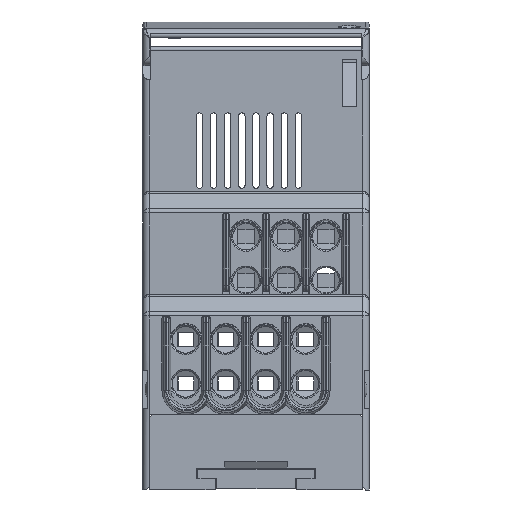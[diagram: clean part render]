
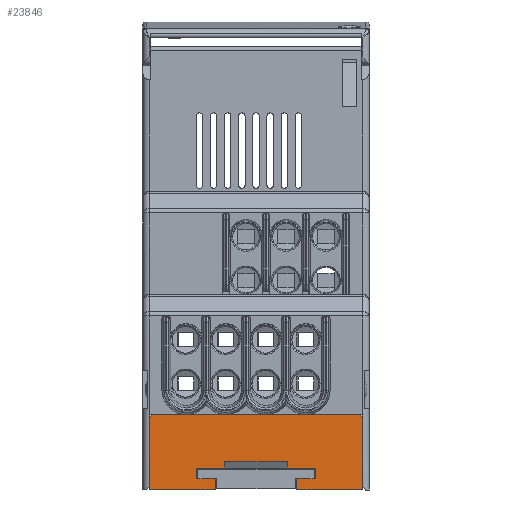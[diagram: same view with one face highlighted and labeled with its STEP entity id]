
A CAD part, front view. The second image highlights one B-rep face of the part: STEP entity #23846.
In plain terms, the highlighted planar face has unit normal (0, -1, 0).
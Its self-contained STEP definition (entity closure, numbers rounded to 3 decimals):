
#484 = VECTOR ( 'NONE', #20129, 1000. ) ;
#949 = VERTEX_POINT ( 'NONE', #53500 ) ;
#1180 = EDGE_CURVE ( 'NONE', #45303, #75495, #28636, .T. ) ;
#1429 = DIRECTION ( 'NONE',  ( -1., 0., 0. ) ) ;
#2219 = ORIENTED_EDGE ( 'NONE', *, *, #30277, .F. ) ;
#2752 = DIRECTION ( 'NONE',  ( 0., 0., 1. ) ) ;
#3574 = CARTESIAN_POINT ( 'NONE',  ( -9.5, -45., 1.8 ) ) ;
#4246 = EDGE_CURVE ( 'NONE', #50995, #17660, #43071, .T. ) ;
#4299 = CARTESIAN_POINT ( 'NONE',  ( -5., -45., 4.5 ) ) ;
#4661 = VERTEX_POINT ( 'NONE', #19169 ) ;
#5085 = PLANE ( 'NONE',  #25148 ) ;
#5450 = CARTESIAN_POINT ( 'NONE',  ( -17., -45., 0. ) ) ;
#5616 = DIRECTION ( 'NONE',  ( 0., 1., 0. ) ) ;
#6233 = EDGE_CURVE ( 'NONE', #73217, #949, #18371, .T. ) ;
#6335 = CARTESIAN_POINT ( 'NONE',  ( 6.5, -45., 1.8 ) ) ;
#7054 = VECTOR ( 'NONE', #63738, 1000. ) ;
#7445 = CARTESIAN_POINT ( 'NONE',  ( -17., -45., 3.5 ) ) ;
#7950 = EDGE_CURVE ( 'NONE', #69383, #56029, #13147, .T. ) ;
#8335 = ORIENTED_EDGE ( 'NONE', *, *, #42676, .F. ) ;
#8557 = CARTESIAN_POINT ( 'NONE',  ( 16.5, -45., 12. ) ) ;
#9383 = EDGE_CURVE ( 'NONE', #73217, #11335, #16351, .T. ) ;
#11070 = VECTOR ( 'NONE', #11446, 1000. ) ;
#11335 = VERTEX_POINT ( 'NONE', #34398 ) ;
#11446 = DIRECTION ( 'NONE',  ( -1., 0., 0. ) ) ;
#11620 = VECTOR ( 'NONE', #73232, 1000. ) ;
#11935 = EDGE_CURVE ( 'NONE', #56029, #67735, #31375, .T. ) ;
#12958 = LINE ( 'NONE', #5450, #11070 ) ;
#13147 = LINE ( 'NONE', #45584, #74516 ) ;
#13331 = CARTESIAN_POINT ( 'NONE',  ( -9.5, -45., 3.5 ) ) ;
#13802 = LINE ( 'NONE', #20501, #75200 ) ;
#14043 = CARTESIAN_POINT ( 'NONE',  ( 5., -45., 3.5 ) ) ;
#14462 = VECTOR ( 'NONE', #2752, 1000. ) ;
#14553 = DIRECTION ( 'NONE',  ( 0.707, 0., -0.707 ) ) ;
#14883 = CARTESIAN_POINT ( 'NONE',  ( -5., -45., 3.5 ) ) ;
#15934 = EDGE_CURVE ( 'NONE', #43482, #45303, #30975, .T. ) ;
#16076 = VECTOR ( 'NONE', #49341, 1000. ) ;
#16347 = LINE ( 'NONE', #20515, #14462 ) ;
#16351 = LINE ( 'NONE', #37786, #484 ) ;
#17429 = EDGE_CURVE ( 'NONE', #49167, #46044, #16347, .T. ) ;
#17660 = VERTEX_POINT ( 'NONE', #4299 ) ;
#18371 = LINE ( 'NONE', #7445, #34087 ) ;
#18839 = CARTESIAN_POINT ( 'NONE',  ( 5., -45., 4.5 ) ) ;
#19169 = CARTESIAN_POINT ( 'NONE',  ( -6.5, -45., 0. ) ) ;
#19531 = VERTEX_POINT ( 'NONE', #37473 ) ;
#20028 = DIRECTION ( 'NONE',  ( 0., 0., 1. ) ) ;
#20129 = DIRECTION ( 'NONE',  ( 0., 0., -1. ) ) ;
#20501 = CARTESIAN_POINT ( 'NONE',  ( -17., -45., 4.5 ) ) ;
#20515 = CARTESIAN_POINT ( 'NONE',  ( -9.5, -45., 3.5 ) ) ;
#21341 = LINE ( 'NONE', #65127, #50939 ) ;
#22027 = DIRECTION ( 'NONE',  ( 1., 0., 0. ) ) ;
#22078 = CARTESIAN_POINT ( 'NONE',  ( -17., -45., 0. ) ) ;
#23837 = ORIENTED_EDGE ( 'NONE', *, *, #73531, .F. ) ;
#23846 = ADVANCED_FACE ( 'NONE', ( #51014 ), #5085, .F. ) ;
#23862 = VECTOR ( 'NONE', #38223, 1000. ) ;
#25148 = AXIS2_PLACEMENT_3D ( 'NONE', #41233, #5616, #47174 ) ;
#25208 = VECTOR ( 'NONE', #40288, 1000. ) ;
#25656 = CARTESIAN_POINT ( 'NONE',  ( -17., -45., 11.5 ) ) ;
#26352 = EDGE_CURVE ( 'NONE', #19531, #58652, #28491, .T. ) ;
#26424 = DIRECTION ( 'NONE',  ( -1., 0., 0. ) ) ;
#27210 = VECTOR ( 'NONE', #38432, 1000. ) ;
#27425 = CARTESIAN_POINT ( 'NONE',  ( -17., -45., 12. ) ) ;
#28491 = LINE ( 'NONE', #27425, #72251 ) ;
#28636 = LINE ( 'NONE', #48105, #38882 ) ;
#28956 = CARTESIAN_POINT ( 'NONE',  ( 6.5, -45., 0. ) ) ;
#28977 = CARTESIAN_POINT ( 'NONE',  ( 17., -45., 0. ) ) ;
#30277 = EDGE_CURVE ( 'NONE', #4661, #58652, #12958, .T. ) ;
#30405 = ORIENTED_EDGE ( 'NONE', *, *, #7950, .F. ) ;
#30744 = ORIENTED_EDGE ( 'NONE', *, *, #4246, .T. ) ;
#30975 = LINE ( 'NONE', #22078, #62473 ) ;
#31375 = LINE ( 'NONE', #8557, #45280 ) ;
#32312 = ORIENTED_EDGE ( 'NONE', *, *, #6233, .F. ) ;
#34087 = VECTOR ( 'NONE', #1429, 1000. ) ;
#34287 = CARTESIAN_POINT ( 'NONE',  ( -6.5, -45., 12. ) ) ;
#34398 = CARTESIAN_POINT ( 'NONE',  ( 9.5, -45., 1.8 ) ) ;
#35043 = ORIENTED_EDGE ( 'NONE', *, *, #26352, .T. ) ;
#36063 = ORIENTED_EDGE ( 'NONE', *, *, #41290, .F. ) ;
#37473 = CARTESIAN_POINT ( 'NONE',  ( -17., -45., 11.5 ) ) ;
#37777 = ORIENTED_EDGE ( 'NONE', *, *, #54597, .F. ) ;
#37786 = CARTESIAN_POINT ( 'NONE',  ( 9.5, -45., 3.5 ) ) ;
#38223 = DIRECTION ( 'NONE',  ( -1., 0., 0. ) ) ;
#38432 = DIRECTION ( 'NONE',  ( 0., 0., 1. ) ) ;
#38882 = VECTOR ( 'NONE', #52701, 1000. ) ;
#39404 = ORIENTED_EDGE ( 'NONE', *, *, #46715, .T. ) ;
#40288 = DIRECTION ( 'NONE',  ( 0., 0., -1. ) ) ;
#41233 = CARTESIAN_POINT ( 'NONE',  ( -17., -45., 12. ) ) ;
#41290 = EDGE_CURVE ( 'NONE', #49167, #73007, #47650, .T. ) ;
#42676 = EDGE_CURVE ( 'NONE', #949, #53734, #43544, .T. ) ;
#43071 = LINE ( 'NONE', #68007, #27210 ) ;
#43397 = CARTESIAN_POINT ( 'NONE',  ( -17., -45., 1.8 ) ) ;
#43482 = VERTEX_POINT ( 'NONE', #28977 ) ;
#43544 = LINE ( 'NONE', #14043, #73337 ) ;
#43934 = CARTESIAN_POINT ( 'NONE',  ( -16.5, -45., 12. ) ) ;
#45280 = VECTOR ( 'NONE', #14553, 1000. ) ;
#45303 = VERTEX_POINT ( 'NONE', #28956 ) ;
#45584 = CARTESIAN_POINT ( 'NONE',  ( -17., -45., 12. ) ) ;
#46044 = VERTEX_POINT ( 'NONE', #13331 ) ;
#46715 = EDGE_CURVE ( 'NONE', #43482, #67735, #54321, .T. ) ;
#47174 = DIRECTION ( 'NONE',  ( -1., 0., 0. ) ) ;
#47650 = LINE ( 'NONE', #43397, #16076 ) ;
#48105 = CARTESIAN_POINT ( 'NONE',  ( 6.5, -45., 12. ) ) ;
#48406 = ORIENTED_EDGE ( 'NONE', *, *, #65149, .F. ) ;
#49167 = VERTEX_POINT ( 'NONE', #3574 ) ;
#49341 = DIRECTION ( 'NONE',  ( 1., 0., 0. ) ) ;
#50485 = CARTESIAN_POINT ( 'NONE',  ( -17., -45., 0. ) ) ;
#50939 = VECTOR ( 'NONE', #71170, 1000. ) ;
#50995 = VERTEX_POINT ( 'NONE', #14883 ) ;
#51014 = FACE_OUTER_BOUND ( 'NONE', #70738, .T. ) ;
#51243 = DIRECTION ( 'NONE',  ( 0., 0., -1. ) ) ;
#52121 = ORIENTED_EDGE ( 'NONE', *, *, #1180, .F. ) ;
#52701 = DIRECTION ( 'NONE',  ( 0., 0., 1. ) ) ;
#53500 = CARTESIAN_POINT ( 'NONE',  ( 5., -45., 3.5 ) ) ;
#53734 = VERTEX_POINT ( 'NONE', #18839 ) ;
#54321 = LINE ( 'NONE', #57643, #7054 ) ;
#54597 = EDGE_CURVE ( 'NONE', #75495, #11335, #21341, .T. ) ;
#55283 = LINE ( 'NONE', #67811, #23862 ) ;
#56029 = VERTEX_POINT ( 'NONE', #67294 ) ;
#56804 = ORIENTED_EDGE ( 'NONE', *, *, #17429, .T. ) ;
#57643 = CARTESIAN_POINT ( 'NONE',  ( 17., -45., 12. ) ) ;
#57808 = CARTESIAN_POINT ( 'NONE',  ( 9.5, -45., 3.5 ) ) ;
#58652 = VERTEX_POINT ( 'NONE', #50485 ) ;
#59653 = CARTESIAN_POINT ( 'NONE',  ( 17., -45., 11.5 ) ) ;
#62473 = VECTOR ( 'NONE', #63527, 1000. ) ;
#63527 = DIRECTION ( 'NONE',  ( -1., 0., 0. ) ) ;
#63561 = ORIENTED_EDGE ( 'NONE', *, *, #11935, .F. ) ;
#63738 = DIRECTION ( 'NONE',  ( 0., 0., 1. ) ) ;
#65127 = CARTESIAN_POINT ( 'NONE',  ( -17., -45., 1.8 ) ) ;
#65149 = EDGE_CURVE ( 'NONE', #19531, #69383, #76825, .T. ) ;
#66354 = CARTESIAN_POINT ( 'NONE',  ( -6.5, -45., 1.8 ) ) ;
#67294 = CARTESIAN_POINT ( 'NONE',  ( 16.5, -45., 12. ) ) ;
#67569 = EDGE_CURVE ( 'NONE', #73007, #4661, #72636, .T. ) ;
#67735 = VERTEX_POINT ( 'NONE', #59653 ) ;
#67801 = ORIENTED_EDGE ( 'NONE', *, *, #67569, .F. ) ;
#67811 = CARTESIAN_POINT ( 'NONE',  ( -17., -45., 3.5 ) ) ;
#68007 = CARTESIAN_POINT ( 'NONE',  ( -5., -45., 3.5 ) ) ;
#69383 = VERTEX_POINT ( 'NONE', #43934 ) ;
#70738 = EDGE_LOOP ( 'NONE', ( #63561, #30405, #48406, #35043, #2219, #67801, #36063, #56804, #23837, #30744, #71807, #8335, #32312, #72928, #37777, #52121, #74097, #39404 ) ) ;
#71170 = DIRECTION ( 'NONE',  ( 1., 0., 0. ) ) ;
#71807 = ORIENTED_EDGE ( 'NONE', *, *, #76110, .F. ) ;
#72251 = VECTOR ( 'NONE', #51243, 1000. ) ;
#72636 = LINE ( 'NONE', #34287, #25208 ) ;
#72928 = ORIENTED_EDGE ( 'NONE', *, *, #9383, .T. ) ;
#73007 = VERTEX_POINT ( 'NONE', #66354 ) ;
#73217 = VERTEX_POINT ( 'NONE', #57808 ) ;
#73232 = DIRECTION ( 'NONE',  ( 0.707, 0., 0.707 ) ) ;
#73337 = VECTOR ( 'NONE', #20028, 1000. ) ;
#73531 = EDGE_CURVE ( 'NONE', #50995, #46044, #55283, .T. ) ;
#74097 = ORIENTED_EDGE ( 'NONE', *, *, #15934, .F. ) ;
#74516 = VECTOR ( 'NONE', #22027, 1000. ) ;
#75200 = VECTOR ( 'NONE', #26424, 1000. ) ;
#75495 = VERTEX_POINT ( 'NONE', #6335 ) ;
#76110 = EDGE_CURVE ( 'NONE', #53734, #17660, #13802, .T. ) ;
#76825 = LINE ( 'NONE', #25656, #11620 ) ;
